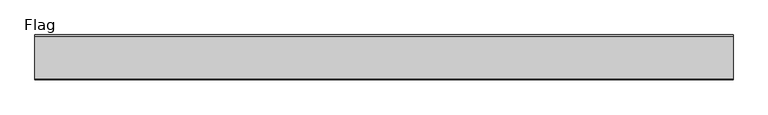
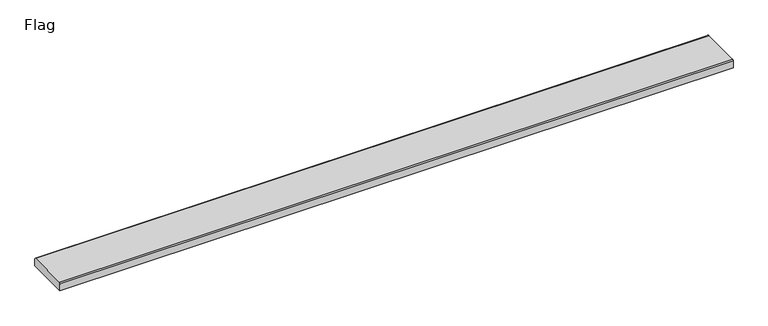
"""IFC4 building model written with IfcOpenShell, lengths in millimetres: sanitary terminal geometry, ZZZ_do not use_PF_ST_UN_grating for ShowerDrain E and M series_ACO : Flag."""

from ifc_helpers import new_model, si_unit, point, frame, frame_2d, origin, place, context, project, spatial, polyline, circle_curve, trimmed, segment, composite_curve, outline, extrude, source, transform, mapped, element, save


def flag_b67f4226(model_context):
    return source(origin(), model_context, "Body", "SweptSolid", [
        extrude(outline(composite_curve([segment(polyline([(38.5, -15.0), (-38.5, -15.0), (-38.5, -1.977849)]), True, "CONTINUOUS"), segment(trimmed(circle_curve(frame_2d((-36.522151, -1.977849)), 1.977849), [point((-38.5, -1.977849))], [point((-36.522151, 0.0))], False, "CARTESIAN"), True, "CONTINUOUS"), segment(polyline([(-36.522151, 0.0), (36.522151, 0.0)]), True, "CONTINUOUS"), segment(trimmed(circle_curve(frame_2d((36.522151, -1.977849)), 1.977849), [point((36.522151, 0.0))], [point((38.5, -1.977849))], False, "CARTESIAN"), True, "CONTINUOUS"), segment(polyline([(38.5, -1.977849), (38.5, -15.0)]), True, "CONTINUOUS")], self_intersect=False)), frame((-598.0, 0.0, 0.0), z_axis=(1.0, 0.0, 0.0), x_axis=(0.0, 1.0, 0.0)), (0.0, 0.0, 1.0), 1196.0),
    ])


if __name__ == "__main__":
    model = new_model("IFC4")
    model_context = context("Model", 3, world=origin())
    ifc_project = project(units=[si_unit("LENGTHUNIT", "METRE", prefix="MILLI")], contexts=[model_context])
    site = spatial("IfcSite", under=ifc_project)
    building = spatial("IfcBuilding", under=site)
    placement = place(None, origin())
    flag_shape = flag_b67f4226(model_context)
    element("IfcSanitaryTerminal", 1, ObjectType="ZZZ_do not use_PF_ST_UN_grating for ShowerDrain E and M series_ACO : Flag", at=placement, inside=building, context=model_context, shape_type="MappedRepresentation", body=[
        mapped(flag_shape, transform((0.0, 0.0, 0.0), x_axis=(1.0, 0.0, 0.0), y_axis=(0.0, 1.0, 0.0), z_axis=(0.0, 0.0, 1.0))),
    ])
    save(model, "model.ifc")
